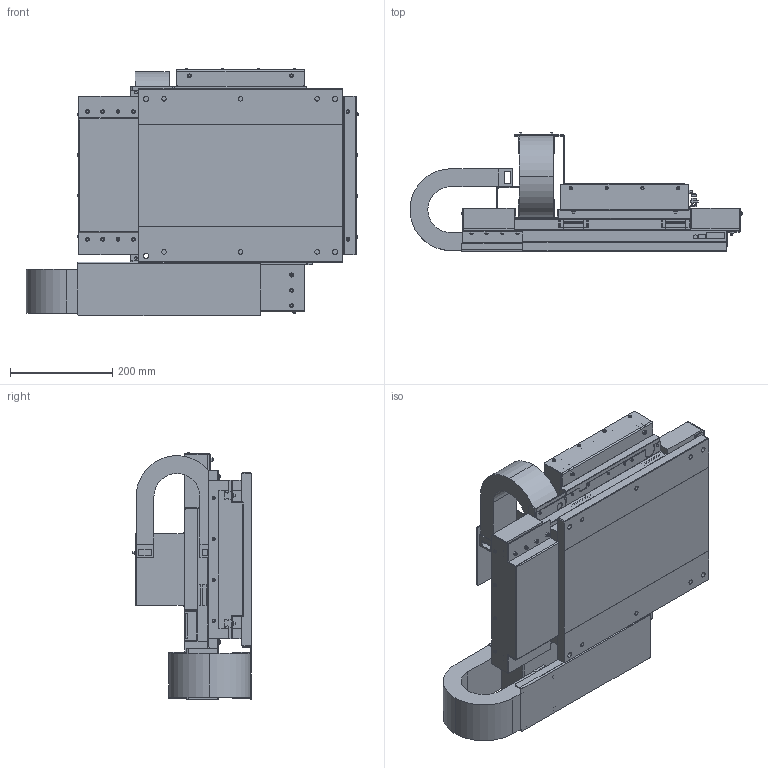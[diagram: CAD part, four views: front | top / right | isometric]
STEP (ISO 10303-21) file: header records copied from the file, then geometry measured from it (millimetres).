
FILE_DESCRIPTION (( 'STEP AP214' ), '1' );
FILE_NAME ('NST-D10B310A3BPJA_#2.00_0.STEP', '2021-03-23T04:37:57', ( '' ), ( '' ), 'SwSTEP 2.0', 'SolidWorks 2018', '' );
FILE_SCHEMA (( 'AUTOMOTIVE_DESIGN' ));
Length unit declared in the file: millimetre
Products named in the file (9): AUA01680; 14GK0100_+側_Org; AUA01700; 14GK0090_Org; AUA01690; NST-D10B310A3BPJA_#2.00_0; 14GK0150; 14GK0160; 14GK0100_-側_Org
Assembly tree (9 placements, depth 2):
  NST-D10B310A3BPJA_#2.00_0
    AUA01680
    AUA01690
    AUA01700
    14GK0100_+側_Org
    14GK0100_-側_Org
    14GK0090_Org  x2
    14GK0150
    14GK0160
Bounding box: 650.28 x 233 x 485 mm (x, y, z)
Volume: 10490445.1 mm3; surface area: 2488302 mm2
Topology: 67 solids, 67 shells, 2562 faces, 6437 edges, 4091 vertices
Faces by surface type: plane 1723, cylinder 749, torus 36, cone 34, sphere 16, bspline 4
Entity records: 99661 total; most frequent: CARTESIAN_POINT 14638, DIRECTION 12667, ORIENTED_EDGE 12478, EDGE_CURVE 6239, VECTOR 4467, LINE 4467, AXIS2_PLACEMENT_3D 4100, VERTEX_POINT 3987
